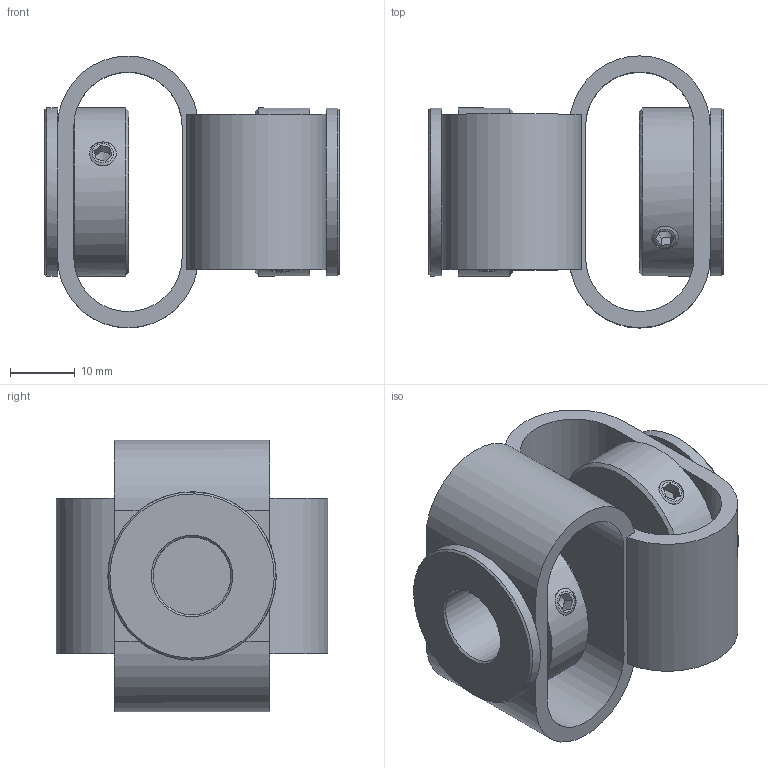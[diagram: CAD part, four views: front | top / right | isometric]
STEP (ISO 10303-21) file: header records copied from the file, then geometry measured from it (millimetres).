
FILE_DESCRIPTION(/* description */ (''),/* implementation_level */ '2;1');
FILE_NAME(/* name */ 'E:\ABP_bauteile\Doppelschlaufenkupplung\DKPS_4848\Doppelschlaufenkupplung_DKPS_4848_06_12.stp',/* time_stamp */ '2015-03-13T13:52:52+01:00',/* author */ ('Rob'),/* organization */ (''),/* preprocessor_version */ 'ST-DEVELOPER v15.6',/* originating_system */ 'Autodesk Inventor 2015',/* authorisation */ '');
FILE_SCHEMA (('CONFIG_CONTROL_DESIGN'));
Length unit declared in the file: millimetre
Products named in the file (1): Bauteil11
Bounding box: 45.55 x 42.03 x 42.03 mm (x, y, z)
Volume: 19857.5 mm3; surface area: 13420.1 mm2
Topology: 1 solids, 2 shells, 138 faces, 317 edges, 190 vertices
Faces by surface type: plane 83, cone 28, cylinder 27
Full cylindrical faces by diameter (mm): 4.134 x8, 6 x1, 12 x1, 16.5 x2, 18 x3, 26 x4
Entity records: 3670 total; most frequent: CARTESIAN_POINT 873, DIRECTION 604, ORIENTED_EDGE 482, AXIS2_PLACEMENT_3D 242, EDGE_CURVE 241, EDGE_LOOP 202, VERTEX_POINT 157, FACE_OUTER_BOUND 138
